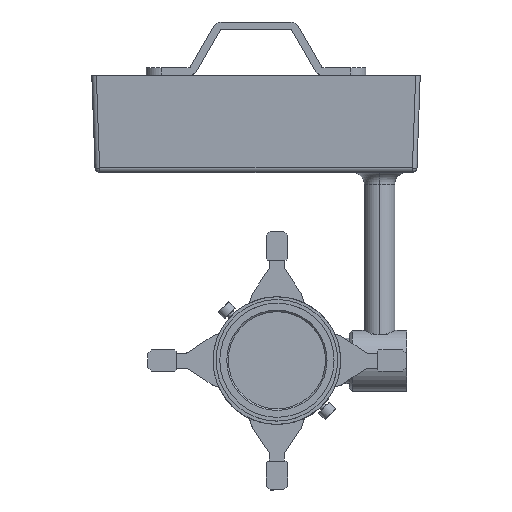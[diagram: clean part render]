
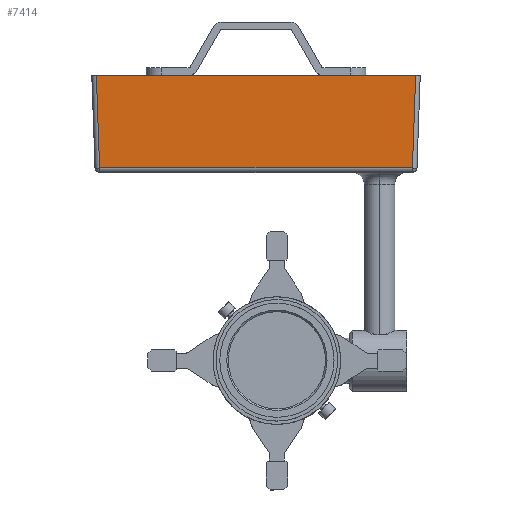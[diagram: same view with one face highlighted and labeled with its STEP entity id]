
A CAD part, top view. The second image highlights one B-rep face of the part: STEP entity #7414.
In plain terms, the highlighted planar face has unit normal (0, -0.035, 0.999).
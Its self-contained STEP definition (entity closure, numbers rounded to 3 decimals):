
#128 = EDGE_CURVE ( 'NONE', #3790, #6357, #540, .T. ) ;
#195 = DIRECTION ( 'NONE',  ( 0.035, 0.999, 0.035 ) ) ;
#512 = DIRECTION ( 'NONE',  ( 0., -0.999, -0.035 ) ) ;
#540 = LINE ( 'NONE', #7329, #5335 ) ;
#637 = EDGE_CURVE ( 'NONE', #5561, #1450, #8549, .T. ) ;
#1100 = LINE ( 'NONE', #5471, #5448 ) ;
#1450 = VERTEX_POINT ( 'NONE', #3061 ) ;
#1490 = VECTOR ( 'NONE', #195, 1000. ) ;
#1845 = EDGE_CURVE ( 'NONE', #1450, #6357, #5641, .T. ) ;
#1857 = VECTOR ( 'NONE', #8895, 1000. ) ;
#3061 = CARTESIAN_POINT ( 'NONE',  ( 49.903, 126.895, 26.251 ) ) ;
#3065 = ORIENTED_EDGE ( 'NONE', *, *, #637, .T. ) ;
#3580 = FACE_OUTER_BOUND ( 'NONE', #4252, .T. ) ;
#3782 = DIRECTION ( 'NONE',  ( 1., 0., 0. ) ) ;
#3790 = VERTEX_POINT ( 'NONE', #5124 ) ;
#3977 = DIRECTION ( 'NONE',  ( 0.035, -0.999, -0.035 ) ) ;
#4252 = EDGE_LOOP ( 'NONE', ( #7123, #6954, #3065, #4766 ) ) ;
#4465 = CARTESIAN_POINT ( 'NONE',  ( 49.548, 116.73, 25.896 ) ) ;
#4766 = ORIENTED_EDGE ( 'NONE', *, *, #1845, .T. ) ;
#5124 = CARTESIAN_POINT ( 'NONE',  ( -158.137, 188., 28.385 ) ) ;
#5335 = VECTOR ( 'NONE', #3782, 1000. ) ;
#5448 = VECTOR ( 'NONE', #3977, 1000. ) ;
#5471 = CARTESIAN_POINT ( 'NONE',  ( -155.905, 124.104, 26.154 ) ) ;
#5551 = DIRECTION ( 'NONE',  ( 0., -0.035, 0.999 ) ) ;
#5561 = VERTEX_POINT ( 'NONE', #8738 ) ;
#5641 = LINE ( 'NONE', #4465, #1490 ) ;
#6336 = EDGE_CURVE ( 'NONE', #3790, #5561, #1100, .T. ) ;
#6357 = VERTEX_POINT ( 'NONE', #7573 ) ;
#6954 = ORIENTED_EDGE ( 'NONE', *, *, #6336, .T. ) ;
#7005 = AXIS2_PLACEMENT_3D ( 'NONE', #7674, #5551, #512 ) ;
#7123 = ORIENTED_EDGE ( 'NONE', *, *, #128, .F. ) ;
#7329 = CARTESIAN_POINT ( 'NONE',  ( -158.9, 188., 28.385 ) ) ;
#7414 = ADVANCED_FACE ( 'NONE', ( #3580 ), #7700, .T. ) ;
#7573 = CARTESIAN_POINT ( 'NONE',  ( 52.037, 188., 28.385 ) ) ;
#7674 = CARTESIAN_POINT ( 'NONE',  ( -158.9, 124., 26.15 ) ) ;
#7700 = PLANE ( 'NONE',  #7005 ) ;
#8549 = LINE ( 'NONE', #8749, #1857 ) ;
#8738 = CARTESIAN_POINT ( 'NONE',  ( -156.003, 126.895, 26.251 ) ) ;
#8749 = CARTESIAN_POINT ( 'NONE',  ( -158.9, 126.895, 26.251 ) ) ;
#8895 = DIRECTION ( 'NONE',  ( 1., 0., 0. ) ) ;
